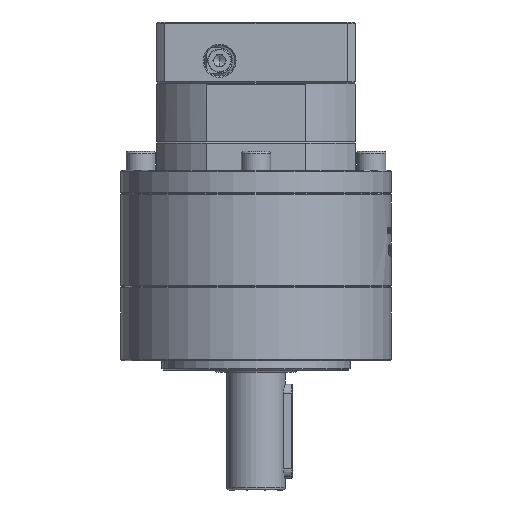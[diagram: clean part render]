
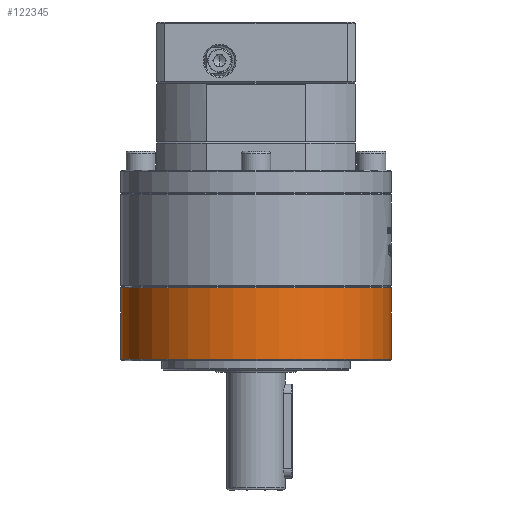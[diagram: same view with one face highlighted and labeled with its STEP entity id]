
A CAD part, left-side view. The second image highlights one B-rep face of the part: STEP entity #122345.
In plain terms, the highlighted cylindrical face has radius 57.5 mm (diameter 115 mm), a partial arc.
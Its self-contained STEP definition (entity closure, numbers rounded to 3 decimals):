
#489 = EDGE_CURVE ( 'NONE', #111081, #101239, #100683, .T. ) ;
#799 = DIRECTION ( 'NONE',  ( 0., 1., 0. ) ) ;
#3592 = VERTEX_POINT ( 'NONE', #51297 ) ;
#9527 = AXIS2_PLACEMENT_3D ( 'NONE', #25620, #27260, #54697 ) ;
#14758 = ORIENTED_EDGE ( 'NONE', *, *, #489, .F. ) ;
#16042 = CIRCLE ( 'NONE', #22423, 57.5 ) ;
#19770 = CARTESIAN_POINT ( 'NONE',  ( 92.668, 45.705, -118.585 ) ) ;
#22423 = AXIS2_PLACEMENT_3D ( 'NONE', #82625, #35710, #111151 ) ;
#25620 = CARTESIAN_POINT ( 'NONE',  ( 92.668, -11.795, -118.585 ) ) ;
#26310 = EDGE_CURVE ( 'NONE', #101239, #27071, #69551, .T. ) ;
#27071 = VERTEX_POINT ( 'NONE', #108891 ) ;
#27260 = DIRECTION ( 'NONE',  ( 0., 0., 1. ) ) ;
#35710 = DIRECTION ( 'NONE',  ( 0., 0., 1. ) ) ;
#39838 = DIRECTION ( 'NONE',  ( 0., 0., 1. ) ) ;
#46763 = CYLINDRICAL_SURFACE ( 'NONE', #9527, 57.5 ) ;
#51297 = CARTESIAN_POINT ( 'NONE',  ( 92.668, -69.295, -131.085 ) ) ;
#51654 = CARTESIAN_POINT ( 'NONE',  ( 92.668, -69.295, -118.585 ) ) ;
#54697 = DIRECTION ( 'NONE',  ( 0., -1., 0. ) ) ;
#56921 = CARTESIAN_POINT ( 'NONE',  ( 92.668, 45.705, -131.085 ) ) ;
#61086 = CARTESIAN_POINT ( 'NONE',  ( 92.668, 45.705, -100.585 ) ) ;
#66612 = AXIS2_PLACEMENT_3D ( 'NONE', #106577, #39838, #799 ) ;
#68770 = VECTOR ( 'NONE', #117972, 1000. ) ;
#69551 = CIRCLE ( 'NONE', #66612, 57.5 ) ;
#73466 = EDGE_CURVE ( 'NONE', #3592, #27071, #89436, .T. ) ;
#77981 = FACE_OUTER_BOUND ( 'NONE', #89989, .T. ) ;
#82625 = CARTESIAN_POINT ( 'NONE',  ( 92.668, -11.795, -131.085 ) ) ;
#83062 = ORIENTED_EDGE ( 'NONE', *, *, #73466, .T. ) ;
#89436 = LINE ( 'NONE', #51654, #68770 ) ;
#89989 = EDGE_LOOP ( 'NONE', ( #14758, #110927, #83062, #106887 ) ) ;
#93942 = EDGE_CURVE ( 'NONE', #111081, #3592, #16042, .T. ) ;
#95293 = DIRECTION ( 'NONE',  ( 0., 0., 1. ) ) ;
#100683 = LINE ( 'NONE', #19770, #110991 ) ;
#101239 = VERTEX_POINT ( 'NONE', #61086 ) ;
#106577 = CARTESIAN_POINT ( 'NONE',  ( 92.668, -11.795, -100.585 ) ) ;
#106887 = ORIENTED_EDGE ( 'NONE', *, *, #26310, .F. ) ;
#108891 = CARTESIAN_POINT ( 'NONE',  ( 92.668, -69.295, -100.585 ) ) ;
#110927 = ORIENTED_EDGE ( 'NONE', *, *, #93942, .T. ) ;
#110991 = VECTOR ( 'NONE', #95293, 1000. ) ;
#111081 = VERTEX_POINT ( 'NONE', #56921 ) ;
#111151 = DIRECTION ( 'NONE',  ( 0., -1., 0. ) ) ;
#117972 = DIRECTION ( 'NONE',  ( 0., 0., 1. ) ) ;
#122345 = ADVANCED_FACE ( 'NONE', ( #77981 ), #46763, .T. ) ;
